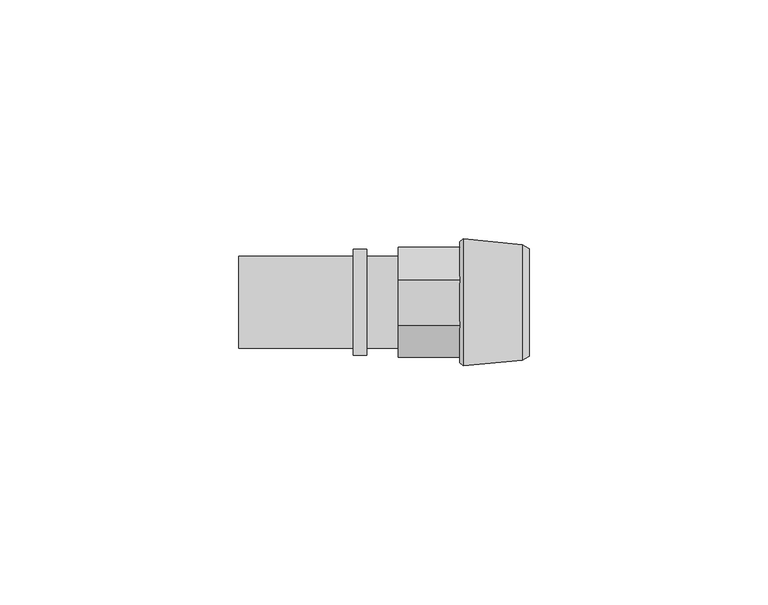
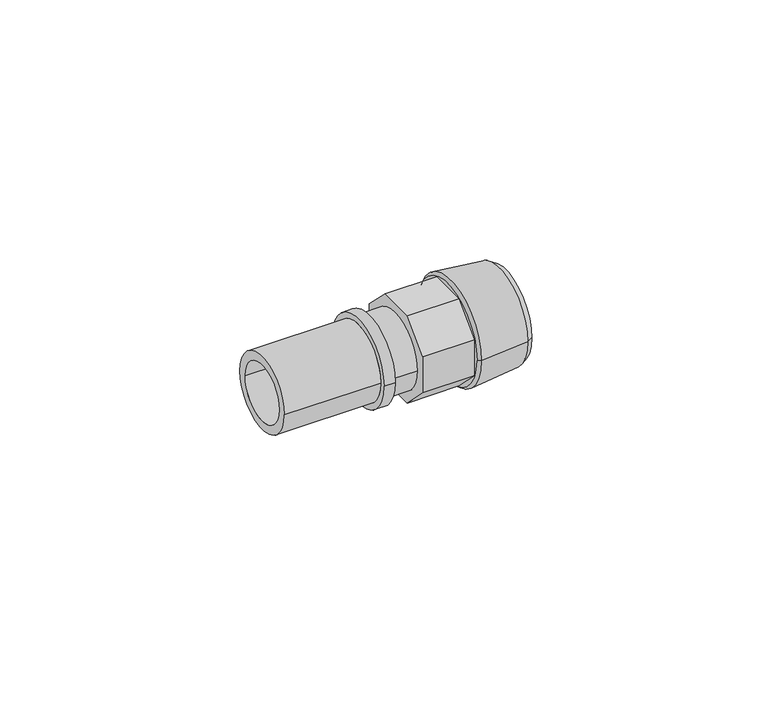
"""IFC4 building model written with IfcOpenShell, lengths in millimetres: pipe fitting geometry, FASTLOC_Adapter_LX, with external thread : FSL A C external PL."""

from ifc_helpers import new_model, si_unit, frame, origin, place, context, project, spatial, polyline, circle_curve, outline, extrude, source, transform, mapped, element, save
from ifc_brep_helpers import plane_surface, cylinder_surface, revolved_surface, advanced_brep


def pipe_fitting_b6172677(model_context):
    return source(origin(), model_context, "Body", "SolidModel", [
        extrude(outline(polyline([(-11.5, 4.763456), (-4.763456, 11.5), (4.763456, 11.5), (11.5, 4.763456), (11.5, -4.763456), (4.763456, -11.5), (-4.763456, -11.5), (-11.5, -4.763456), (-11.5, 4.763456)])), frame((0.0, 0.0, 0.0), z_axis=(1.0, 0.0, 0.0), x_axis=(0.0, 1.0, 0.0)), (0.0, 0.0, 1.0), 12.9),
        advanced_brep(
        [(14.0032803, 9.5, 0.0), (14.0032803, -9.5, 0.0), (27.4, -9.5, 0.0), (27.4, 9.5, 0.0), (12.9, 8.3967197, 0.0), (12.9, -8.3967197, 0.0), (13.6406902, 13.3, 0.0), (13.6406902, -13.3, 0.0), (12.9, -12.7, 0.0), (12.9, 12.7, 0.0), (25.9000007, 12.1, 0.0), (25.9000007, -12.1, 0.0), (27.4, 11.25, 0.0), (27.4, -11.25, 0.0)],
        [
            (0, 1, circle_curve(frame((14.0032803, 0.0, 0.0), z_axis=(-1.0, 0.0, 0.0), x_axis=(0.0, -1.0, 0.0)), 9.5)),
            (1, 2),
            (2, 3, circle_curve(frame((27.4, 0.0, 0.0), z_axis=(1.0, 0.0, 0.0), x_axis=(0.0, -1.0, 0.0)), 9.5)),
            (3, 0),
            (4, 5, circle_curve(frame((12.9, 0.0, 0.0), z_axis=(-1.0, 0.0, 0.0), x_axis=(0.0, -1.0, 0.0)), 8.3967197)),
            (5, 1),
            (0, 4),
            (6, 7, circle_curve(frame((13.6406902, 0.0, 0.0), z_axis=(-1.0, 0.0, 0.0), x_axis=(0.0, -1.0, 0.0)), 13.3)),
            (7, 8),
            (8, 9, circle_curve(frame((12.9, 0.0, 0.0), z_axis=(1.0, 0.0, 0.0), x_axis=(0.0, -1.0, 0.0)), 12.7)),
            (9, 6),
            (10, 11, circle_curve(frame((25.9000007, 0.0, 0.0), z_axis=(-1.0, 0.0, 0.0), x_axis=(0.0, -1.0, 0.0)), 12.1)),
            (11, 7),
            (6, 10),
            (12, 13, circle_curve(frame((27.4, 0.0, 0.0), z_axis=(-1.0, 0.0, 0.0), x_axis=(0.0, -1.0, 0.0)), 11.25)),
            (13, 11),
            (10, 12),
            (1, 0, circle_curve(frame((14.0032803, 0.0, 0.0), z_axis=(-1.0, 0.0, 0.0), x_axis=(0.0, 1.0, 0.0)), 9.5)),
            (3, 2, circle_curve(frame((27.4, 0.0, 0.0), z_axis=(1.0, 0.0, 0.0), x_axis=(0.0, 1.0, 0.0)), 9.5)),
            (5, 4, circle_curve(frame((12.9, 0.0, 0.0), z_axis=(-1.0, 0.0, 0.0), x_axis=(0.0, 1.0, 0.0)), 8.3967197)),
            (8, 9, circle_curve(frame((12.9, 0.0, 0.0), z_axis=(-1.0, 0.0, 0.0), x_axis=(0.0, 1.0, 0.0)), 12.7)),
            (7, 6, circle_curve(frame((13.6406902, 0.0, 0.0), z_axis=(-1.0, 0.0, 0.0), x_axis=(0.0, 1.0, 0.0)), 13.3)),
            (11, 10, circle_curve(frame((25.9000007, 0.0, 0.0), z_axis=(-1.0, 0.0, 0.0), x_axis=(0.0, 1.0, 0.0)), 12.1)),
            (13, 12, circle_curve(frame((27.4, 0.0, 0.0), z_axis=(-1.0, 0.0, 0.0), x_axis=(0.0, 1.0, 0.0)), 11.25)),
        ],
        [
            revolved_surface(polyline([(27.4, -9.5, 0.0), (14.0032803, -9.5, 0.0)]), (0.0, 0.0, 0.0), (1.0, 0.0, 0.0)),
            revolved_surface(polyline([(14.0032803, -9.5, 0.0), (12.9, -8.3967197, 0.0)]), (0.0, 0.0, 0.0), (1.0, 0.0, 0.0)),
            revolved_surface(polyline([(12.9, -12.7, 0.0), (13.6406902, -13.3, 0.0)]), (0.0, 0.0, 0.0), (1.0, 0.0, 0.0)),
            revolved_surface(polyline([(13.6406902, -13.3, 0.0), (25.9000007, -12.1, 0.0)]), (0.0, 0.0, 0.0), (1.0, 0.0, 0.0)),
            revolved_surface(polyline([(25.9000007, -12.1, 0.0), (27.4, -11.25, 0.0)]), (0.0, 0.0, 0.0), (1.0, 0.0, 0.0)),
            revolved_surface(polyline([(27.4, 9.5, 0.0), (14.0032803, 9.5, 0.0)]), (0.0, 0.0, 0.0), (1.0, 0.0, 0.0)),
            revolved_surface(polyline([(14.0032803, 9.5, 0.0), (12.9, 8.3967197, 0.0)]), (0.0, 0.0, 0.0), (1.0, 0.0, 0.0)),
            plane_surface(frame((12.9, 0.0, 0.0), z_axis=(-1.0, 0.0, 0.0), x_axis=(0.0, 1.0, 0.0))),
            revolved_surface(polyline([(12.9, 12.7, 0.0), (13.6406902, 13.3, 0.0)]), (0.0, 0.0, 0.0), (1.0, 0.0, 0.0)),
            revolved_surface(polyline([(13.6406902, 13.3, 0.0), (25.9000007, 12.1, 0.0)]), (0.0, 0.0, 0.0), (1.0, 0.0, 0.0)),
            revolved_surface(polyline([(25.9000007, 12.1, 0.0), (27.4, 11.25, 0.0)]), (0.0, 0.0, 0.0), (1.0, 0.0, 0.0)),
            plane_surface(frame((27.4, 0.0, 0.0), z_axis=(1.0, 0.0, 0.0), x_axis=(0.0, 1.0, 0.0))),
        ],
        [
            (0, [[1, 2, 3, 4]]),
            (1, [[5, 6, -1, 7]]),
            (2, [[8, 9, 10, 11]]),
            (3, [[12, 13, -8, 14]]),
            (4, [[15, 16, -12, 17]]),
            (5, [[18, -4, 19, -2]]),
            (6, [[20, -7, -18, -6]]),
            (7, [[21, -10], [-20, -5]]),
            (8, [[22, -11, -21, -9]]),
            (9, [[23, -14, -22, -13]]),
            (10, [[24, -17, -23, -16]]),
            (11, [[-24, -15], [-19, -3]]),
        ],
    ),
        advanced_brep(
        [(-9.4, 9.6, 0.0), (-9.4, -9.6, 0.0), (-33.4, -9.6, 0.0), (-33.4, 9.6, 0.0), (-6.6, 11.1, 0.0), (-6.6, -11.1, 0.0), (-9.4, -11.1, 0.0), (-9.4, 11.1, 0.0), (0.0, 9.6, 0.0), (0.0, -9.6, 0.0), (-6.6, -9.6, 0.0), (-6.6, 9.6, 0.0), (-33.4, 7.35, 0.0), (-33.4, -7.35, 0.0), (0.0, -7.35, 0.0), (0.0, 7.35, 0.0)],
        [
            (0, 1, circle_curve(frame((-9.4, 0.0, 0.0), z_axis=(-1.0, 0.0, 0.0), x_axis=(0.0, -1.0, 0.0)), 9.6)),
            (1, 2),
            (2, 3, circle_curve(frame((-33.4, 0.0, 0.0), z_axis=(1.0, 0.0, 0.0), x_axis=(0.0, -1.0, 0.0)), 9.6)),
            (3, 0),
            (4, 5, circle_curve(frame((-6.6, 0.0, 0.0), z_axis=(-1.0, 0.0, 0.0), x_axis=(0.0, -1.0, 0.0)), 11.1)),
            (5, 6),
            (6, 7, circle_curve(frame((-9.4, 0.0, 0.0), z_axis=(1.0, 0.0, 0.0), x_axis=(0.0, -1.0, 0.0)), 11.1)),
            (7, 4),
            (8, 9, circle_curve(frame((0.0, 0.0, 0.0), z_axis=(-1.0, 0.0, 0.0), x_axis=(0.0, -1.0, 0.0)), 9.6)),
            (9, 10),
            (10, 11, circle_curve(frame((-6.6, 0.0, 0.0), z_axis=(1.0, 0.0, 0.0), x_axis=(0.0, -1.0, 0.0)), 9.6)),
            (11, 8),
            (12, 13, circle_curve(frame((-33.4, 0.0, 0.0), z_axis=(-1.0, 0.0, 0.0), x_axis=(0.0, -1.0, 0.0)), 7.35)),
            (13, 14),
            (14, 15, circle_curve(frame((0.0, 0.0, 0.0), z_axis=(1.0, 0.0, 0.0), x_axis=(0.0, -1.0, 0.0)), 7.35)),
            (15, 12),
            (2, 3, circle_curve(frame((-33.4, 0.0, 0.0), z_axis=(-1.0, 0.0, 0.0), x_axis=(0.0, 1.0, 0.0)), 9.6)),
            (12, 13, circle_curve(frame((-33.4, 0.0, 0.0), z_axis=(1.0, 0.0, 0.0), x_axis=(0.0, 1.0, 0.0)), 7.35)),
            (1, 0, circle_curve(frame((-9.4, 0.0, 0.0), z_axis=(-1.0, 0.0, 0.0), x_axis=(0.0, 1.0, 0.0)), 9.6)),
            (6, 7, circle_curve(frame((-9.4, 0.0, 0.0), z_axis=(-1.0, 0.0, 0.0), x_axis=(0.0, 1.0, 0.0)), 11.1)),
            (5, 4, circle_curve(frame((-6.6, 0.0, 0.0), z_axis=(-1.0, 0.0, 0.0), x_axis=(0.0, 1.0, 0.0)), 11.1)),
            (10, 11, circle_curve(frame((-6.6, 0.0, 0.0), z_axis=(-1.0, 0.0, 0.0), x_axis=(0.0, 1.0, 0.0)), 9.6)),
            (9, 8, circle_curve(frame((0.0, 0.0, 0.0), z_axis=(-1.0, 0.0, 0.0), x_axis=(0.0, 1.0, 0.0)), 9.6)),
            (14, 15, circle_curve(frame((0.0, 0.0, 0.0), z_axis=(-1.0, 0.0, 0.0), x_axis=(0.0, 1.0, 0.0)), 7.35)),
        ],
        [
            cylinder_surface(frame((0.0, 0.0, 0.0), z_axis=(1.0, 0.0, 0.0), x_axis=(0.0, -1.0, 0.0)), 9.6),
            cylinder_surface(frame((0.0, 0.0, 0.0), z_axis=(1.0, 0.0, 0.0), x_axis=(0.0, -1.0, 0.0)), 11.1),
            revolved_surface(polyline([(0.0, -7.35, 0.0), (-33.4, -7.35, 0.0)]), (0.0, 0.0, 0.0), (1.0, 0.0, 0.0)),
            plane_surface(frame((-33.4, 0.0, 0.0), z_axis=(-1.0, 0.0, 0.0), x_axis=(0.0, 1.0, 0.0))),
            cylinder_surface(frame((0.0, 0.0, 0.0), z_axis=(1.0, 0.0, 0.0), x_axis=(0.0, 1.0, 0.0)), 9.6),
            plane_surface(frame((-9.4, 0.0, 0.0), z_axis=(-1.0, 0.0, 0.0), x_axis=(0.0, 1.0, 0.0))),
            cylinder_surface(frame((0.0, 0.0, 0.0), z_axis=(1.0, 0.0, 0.0), x_axis=(0.0, 1.0, 0.0)), 11.1),
            plane_surface(frame((-6.6, 0.0, 0.0), z_axis=(1.0, 0.0, 0.0), x_axis=(0.0, 1.0, 0.0))),
            plane_surface(frame((0.0, 0.0, 0.0), z_axis=(1.0, 0.0, 0.0), x_axis=(0.0, 1.0, 0.0))),
            revolved_surface(polyline([(0.0, 7.35, 0.0), (-33.4, 7.35, 0.0)]), (0.0, 0.0, 0.0), (1.0, 0.0, 0.0)),
        ],
        [
            (0, [[1, 2, 3, 4]]),
            (1, [[5, 6, 7, 8]]),
            (0, [[9, 10, 11, 12]]),
            (2, [[13, 14, 15, 16]]),
            (3, [[17, -3], [18, -13]]),
            (4, [[19, -4, -17, -2]]),
            (5, [[20, -7], [-19, -1]]),
            (6, [[21, -8, -20, -6]]),
            (7, [[-21, -5], [22, -11]]),
            (4, [[23, -12, -22, -10]]),
            (8, [[-23, -9], [24, -15]]),
            (9, [[-18, -16, -24, -14]]),
        ],
    ),
    ])


if __name__ == "__main__":
    model = new_model("IFC4")
    model_context = context("Model", 3, world=origin())
    ifc_project = project(units=[si_unit("LENGTHUNIT", "METRE", prefix="MILLI")], contexts=[model_context])
    site = spatial("IfcSite", under=ifc_project)
    building = spatial("IfcBuilding", under=site)
    placement = place(None, origin())
    pipe_fitting_shape = pipe_fitting_b6172677(model_context)
    element("IfcPipeFitting", 1, ObjectType="FASTLOC_Adapter_LX, with external thread : FSL A C external PL", at=placement, inside=building, context=model_context, shape_type="MappedRepresentation", body=[
        mapped(pipe_fitting_shape, transform((0.0, 0.0, 0.0), x_axis=(1.0, 0.0, 0.0), y_axis=(0.0, 1.0, 0.0), z_axis=(0.0, 0.0, 1.0))),
    ])
    save(model, "model.ifc")
